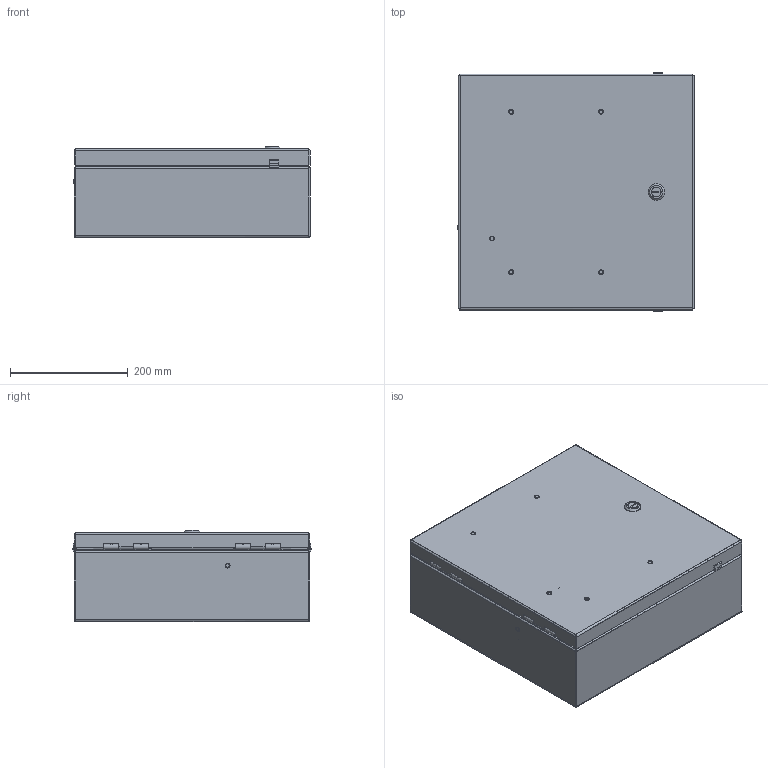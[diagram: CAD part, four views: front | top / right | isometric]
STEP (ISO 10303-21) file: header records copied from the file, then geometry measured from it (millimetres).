
FILE_DESCRIPTION (( 'STEP AP203' ), '1' );
FILE_NAME ('ecl404015.STEP', '2013-09-06T15:42:59', ( 'User' ), ( 'Pentair Inc' ), 'SwSTEP 2.0', 'SolidWorks 2010', '' );
FILE_SCHEMA (( 'CONFIG_CONTROL_DESIGN' ));
Length unit declared in the file: inch
Products named in the file (35): 87550792_87550792; 87550790_87550790; 87550851; 89051038; 99415969_99415969; 99417109_PEM CLS-M5-2 ---N; 87550791_87550791; ecl404015; 89051916; 89052997; 87554438; 87554978_PEM HFHS-M6-15 ---N; 87554969; 89051746; 89051723; 87554452; 87554979_87554979; 99411940_99411940; 89051704; 64138001; 87780048; 87554966_OPEN; 87960059_Default 14 ga; 87956873; 87956874; 31122001_31122001; 99407583; 87956867; 99405181; 87956872; 87956875; 99411089; 99411839_99411839; 87554494; 87793415_87793415
Assembly tree (51 placements, depth 5):
  ecl404015
    87550792_87550792  x2
    87550791_87550791  x2
    87550790_87550790  x2
    87550851  x2
      99415969_99415969
      99417109_PEM CLS-M5-2 ---N
      89051038
    89051916
      87554969  x4
      89052997
        87554978_PEM HFHS-M6-15 ---N  x4
        87554438
        99411940_99411940
    89051746
      87780048
      87554494
      99411839_99411839  x2
      89051723
        87554979_87554979  x4
        99411940_99411940
        87554452
      89051704
      64138001  x2
      87554966_OPEN
        99407583
          99405181
          87956872
          87956867
          87956875
        99411089
        87960059_Default 14 ga
          87956874
          31122001_31122001
          87956873
    87793415_87793415
Bounding box: 400.73 x 404.06 x 154.37 mm (x, y, z)
Volume: 1456368.9 mm3; surface area: 1396784.3 mm2
Topology: 46 solids, 46 shells, 2877 faces, 7507 edges, 4814 vertices
Faces by surface type: plane 1690, cylinder 752, cone 277, bspline 82, torus 60, sphere 16
Entity records: 57320 total; most frequent: CARTESIAN_POINT 15475, ORIENTED_EDGE 7932, DIRECTION 7696, EDGE_CURVE 3966, AXIS2_PLACEMENT_3D 2648, VERTEX_POINT 2510, LINE 2400, VECTOR 2400
